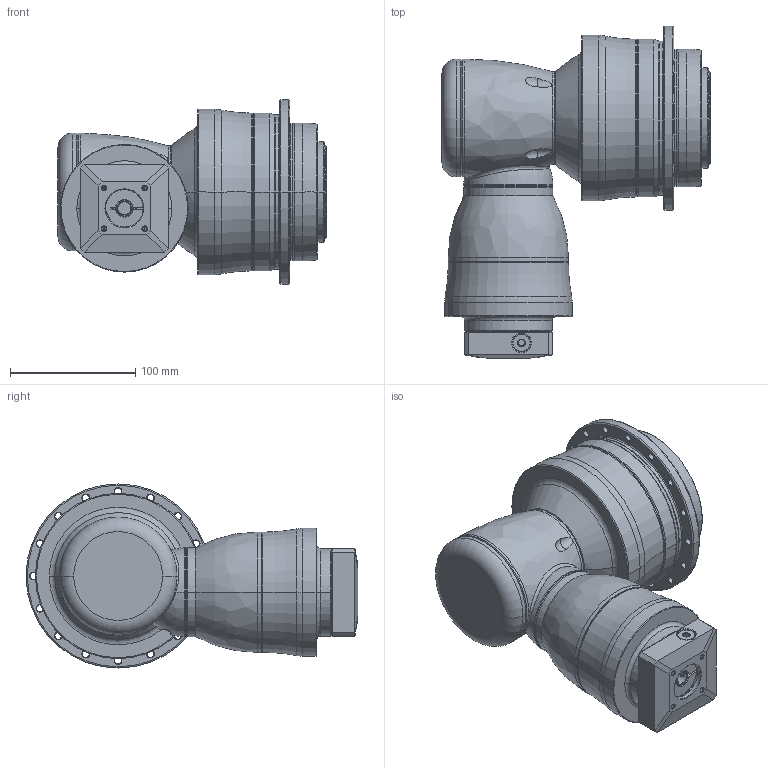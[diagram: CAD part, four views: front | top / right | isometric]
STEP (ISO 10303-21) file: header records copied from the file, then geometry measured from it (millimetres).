
FILE_DESCRIPTION((''),'2;1');
FILE_NAME('APK110_4ST_11-P0409200201_ASM','2018-10-04T',('D00080'),(''),'PRO/ENGINEER BY PARAMETRIC TECHNOLOGY CORPORATION, 2015240','PRO/ENGINEER BY PARAMETRIC TECHNOLOGY CORPORATION, 2015240','');
FILE_SCHEMA(('CONFIG_CONTROL_DESIGN'));
Length unit declared in the file: millimetre
Products named in the file (13): P1008300002; P1832400001; P0278401003; P0359401103; P1211400001; P1315300001; P1007301001; P1317310101; P0503200005; P0912201001; P0409200201; 21711410012; APK110_4ST_11-P0409200201_ASM
Assembly tree (12 placements, depth 2):
  APK110_4ST_11-P0409200201_ASM
    P1008300002
    P1832400001
    P0278401003
    P0359401103
    P1211400001
    P1315300001
    P1007301001
    P1317310101
    P0503200005
    P0912201001
    P0409200201
    21711410012
Bounding box: 214 x 265 x 147 mm (x, y, z)
Volume: 2688480.9 mm3; surface area: 341008.6 mm2
Topology: 13 solids, 34 shells, 699 faces, 1602 edges, 964 vertices
Faces by surface type: cylinder 277, cone 180, plane 123, torus 82, bspline 35, sphere 2
Entity records: 26559 total; most frequent: CARTESIAN_POINT 10354, DIRECTION 3690, ORIENTED_EDGE 3022, AXIS2_PLACEMENT_3D 1585, EDGE_CURVE 1554, VERTEX_POINT 958, CIRCLE 886, EDGE_LOOP 826
